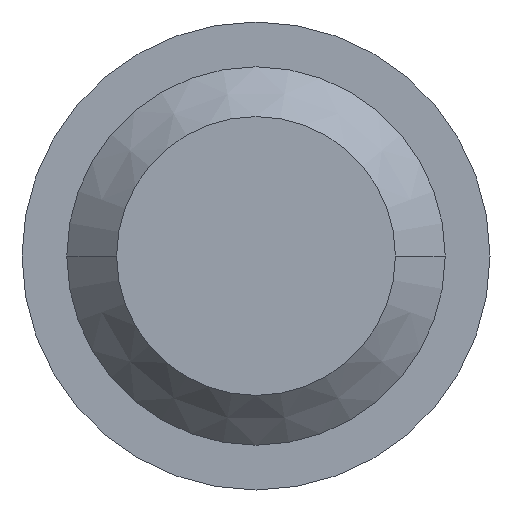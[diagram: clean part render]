
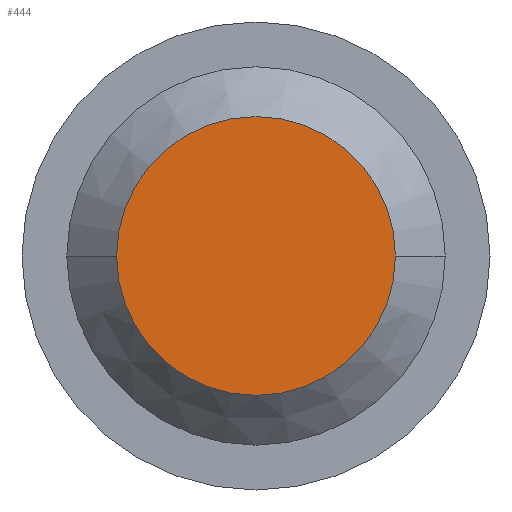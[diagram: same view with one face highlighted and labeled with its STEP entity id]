
A CAD part, front view. The second image highlights one B-rep face of the part: STEP entity #444.
In plain terms, the highlighted planar face has unit normal (0, -1, 0).
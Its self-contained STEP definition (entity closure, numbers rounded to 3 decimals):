
#26=CARTESIAN_POINT('',(0.,-5.7,0.));
#27=DIRECTION('',(0.,1.,0.));
#28=DIRECTION('',(1.,0.,0.));
#29=AXIS2_PLACEMENT_3D('',#26,#27,#28);
#63=CARTESIAN_POINT('',(0.,-5.7,0.));
#64=DIRECTION('',(0.,-1.,0.));
#65=DIRECTION('',(1.,0.,0.));
#66=AXIS2_PLACEMENT_3D('',#63,#64,#65);
#387=CARTESIAN_POINT('',(0.7,-5.7,0.));
#388=CARTESIAN_POINT('',(-0.7,-5.7,0.));
#389=VERTEX_POINT('',#387);
#390=VERTEX_POINT('',#388);
#433=CARTESIAN_POINT('',(0.,-5.7,0.));
#434=DIRECTION('',(0.,-1.,0.));
#435=DIRECTION('',(-1.,0.,0.));
#436=AXIS2_PLACEMENT_3D('',#433,#434,#435);
#437=PLANE('',#436);
#439=ORIENTED_EDGE('',*,*,#438,.T.);
#441=ORIENTED_EDGE('',*,*,#440,.F.);
#442=EDGE_LOOP('',(#439,#441));
#443=FACE_OUTER_BOUND('',#442,.F.);
#444=ADVANCED_FACE('',(#443),#437,.T.);
#30=CIRCLE('',#29,0.7);
#67=CIRCLE('',#66,0.7);
#438=EDGE_CURVE('',#389,#390,#30,.T.);
#440=EDGE_CURVE('',#389,#390,#67,.T.);
